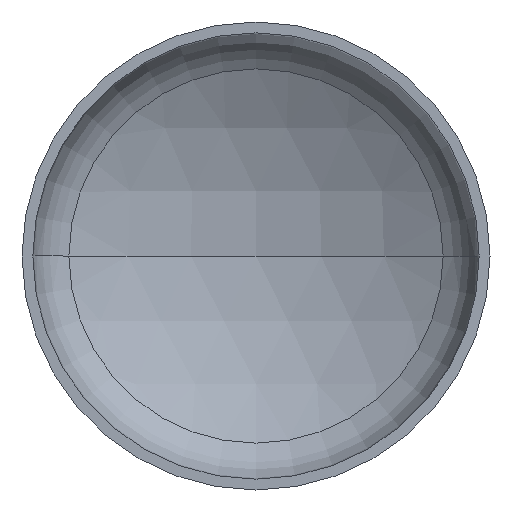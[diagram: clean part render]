
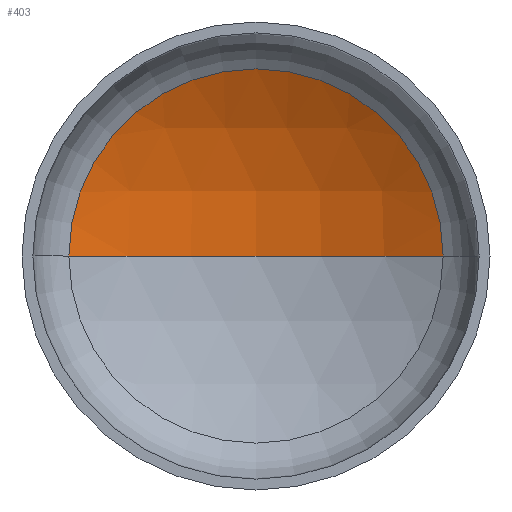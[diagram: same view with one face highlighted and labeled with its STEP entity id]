
A CAD part, front view. The second image highlights one B-rep face of the part: STEP entity #403.
In plain terms, the highlighted spherical face has radius 3040 mm.
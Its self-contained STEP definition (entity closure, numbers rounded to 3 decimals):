
#5 = ORIENTED_EDGE ( 'NONE', *, *, #336, .T. ) ;
#12 = VERTEX_POINT ( 'NONE', #281 ) ;
#15 = EDGE_LOOP ( 'NONE', ( #46, #5, #125 ) ) ;
#18 = AXIS2_PLACEMENT_3D ( 'NONE', #212, #155, #319 ) ;
#21 = AXIS2_PLACEMENT_3D ( 'NONE', #173, #170, #172 ) ;
#24 = AXIS2_PLACEMENT_3D ( 'NONE', #143, #144, #168 ) ;
#46 = ORIENTED_EDGE ( 'NONE', *, *, #338, .F. ) ;
#78 = VERTEX_POINT ( 'NONE', #232 ) ;
#87 = CIRCLE ( 'NONE', #21, 3040. ) ;
#107 = VERTEX_POINT ( 'NONE', #302 ) ;
#121 = DIRECTION ( 'NONE',  ( 0., 0., -1. ) ) ;
#125 = ORIENTED_EDGE ( 'NONE', *, *, #325, .T. ) ;
#143 = CARTESIAN_POINT ( 'NONE',  ( 0., 606.694, 0. ) ) ;
#144 = DIRECTION ( 'NONE',  ( 0., -1., 0. ) ) ;
#155 = DIRECTION ( 'NONE',  ( 0., 0., 1. ) ) ;
#168 = DIRECTION ( 'NONE',  ( 1., 0., 0. ) ) ;
#170 = DIRECTION ( 'NONE',  ( 0., 0., -1. ) ) ;
#172 = DIRECTION ( 'NONE',  ( -1., 0., 0. ) ) ;
#173 = CARTESIAN_POINT ( 'NONE',  ( 0., -2026.381, 0. ) ) ;
#193 = AXIS2_PLACEMENT_3D ( 'NONE', #370, #121, #350 ) ;
#212 = CARTESIAN_POINT ( 'NONE',  ( 0., -2026.381, 0. ) ) ;
#232 = CARTESIAN_POINT ( 'NONE',  ( 0., 1013.619, 0. ) ) ;
#260 = CIRCLE ( 'NONE', #24, 1519.381 ) ;
#281 = CARTESIAN_POINT ( 'NONE',  ( -1519.381, 606.694, 0. ) ) ;
#285 = SPHERICAL_SURFACE ( 'NONE', #193, 3040. ) ;
#302 = CARTESIAN_POINT ( 'NONE',  ( 1519.381, 606.694, 0. ) ) ;
#313 = CIRCLE ( 'NONE', #18, 3040. ) ;
#319 = DIRECTION ( 'NONE',  ( 1., 0., 0. ) ) ;
#325 = EDGE_CURVE ( 'NONE', #107, #12, #260, .T. ) ;
#336 = EDGE_CURVE ( 'NONE', #78, #107, #87, .T. ) ;
#338 = EDGE_CURVE ( 'NONE', #78, #12, #313, .T. ) ;
#350 = DIRECTION ( 'NONE',  ( -1., 0., 0. ) ) ;
#370 = CARTESIAN_POINT ( 'NONE',  ( 0., -2026.381, 0. ) ) ;
#403 = ADVANCED_FACE ( 'NONE', ( #407 ), #285, .F. ) ;
#407 = FACE_OUTER_BOUND ( 'NONE', #15, .T. ) ;
